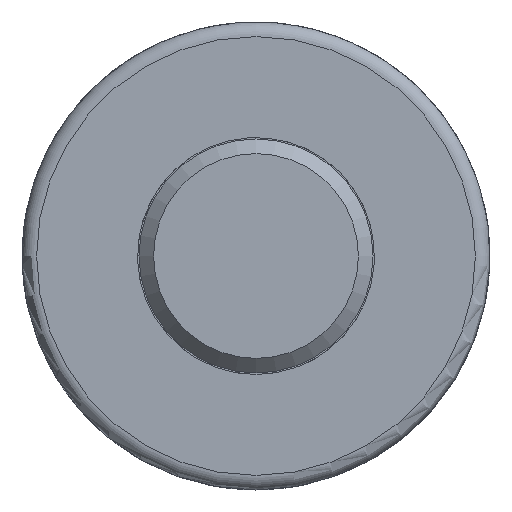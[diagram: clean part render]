
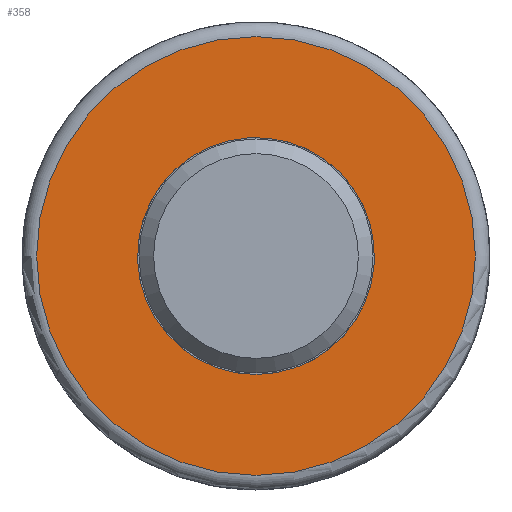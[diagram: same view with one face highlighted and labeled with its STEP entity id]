
A CAD part, front view. The second image highlights one B-rep face of the part: STEP entity #358.
In plain terms, the highlighted planar face has unit normal (0, -1, 0).
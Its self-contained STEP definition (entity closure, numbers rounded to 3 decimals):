
#203=FACE_BOUND('',#493,.T.);
#204=FACE_BOUND('',#494,.T.);
#358=ADVANCED_FACE('',(#203,#204),#394,.T.);
#394=PLANE('',#1103);
#493=EDGE_LOOP('',(#709));
#494=EDGE_LOOP('',(#710));
#709=ORIENTED_EDGE('',*,*,#1004,.T.);
#710=ORIENTED_EDGE('',*,*,#999,.F.);
#875=VERTEX_POINT('',#2425);
#876=VERTEX_POINT('',#2432);
#999=EDGE_CURVE('',#875,#875,#1025,.T.);
#1004=EDGE_CURVE('',#876,#876,#1030,.T.);
#1025=CIRCLE('',#1096,4.05);
#1030=CIRCLE('',#1102,7.5);
#1096=AXIS2_PLACEMENT_3D('',#2424,#1295,#1296);
#1102=AXIS2_PLACEMENT_3D('',#2431,#1307,#1308);
#1103=AXIS2_PLACEMENT_3D('',#2433,#1309,#1310);
#1295=DIRECTION('',(0.,-1.,0.));
#1296=DIRECTION('',(0.,0.,-1.));
#1307=DIRECTION('',(0.,-1.,0.));
#1308=DIRECTION('',(0.,0.,-1.));
#1309=DIRECTION('',(0.,-1.,0.));
#1310=DIRECTION('',(-1.,0.,0.));
#2424=CARTESIAN_POINT('',(0.,-17.978,0.022));
#2425=CARTESIAN_POINT('',(0.,-17.978,-4.028));
#2431=CARTESIAN_POINT('',(0.,-17.978,0.022));
#2432=CARTESIAN_POINT('',(0.,-17.978,-7.478));
#2433=CARTESIAN_POINT('',(0.,-17.978,0.022));
